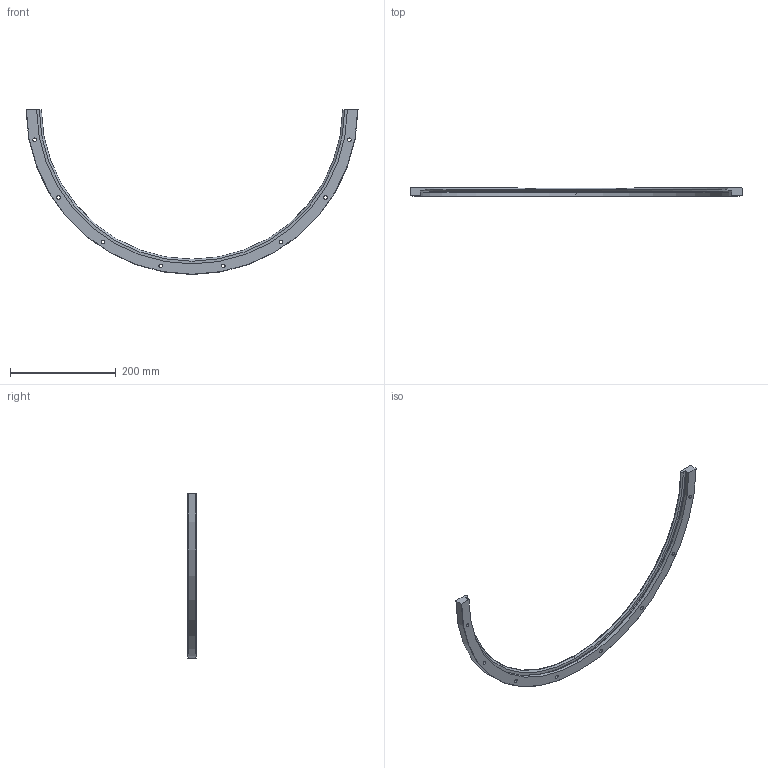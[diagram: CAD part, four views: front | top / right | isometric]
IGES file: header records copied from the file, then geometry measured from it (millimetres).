
Start section: 3D InterOp IGES (v. 2020 1.0.1), Spatial Corp. Copyright (c) 1999-2017.
Global section: file name: rim_627_r180.igs; native system: Spatial Corp.; preprocessor: 3D InterOp ACIS/IGES; author: TraceParts; organization: TraceParts S.A.; date: 20220624.062953; units: millimetre
Bounding box: 627.49 x 15.5 x 311.75 mm (x, y, z)
Surface area: 84067.1 mm2 (no closed solid volume)
Topology: 0 solids, 0 shells, 64 faces, 314 edges, 314 vertices
Faces by surface type: revolution 50, extrusion 14
